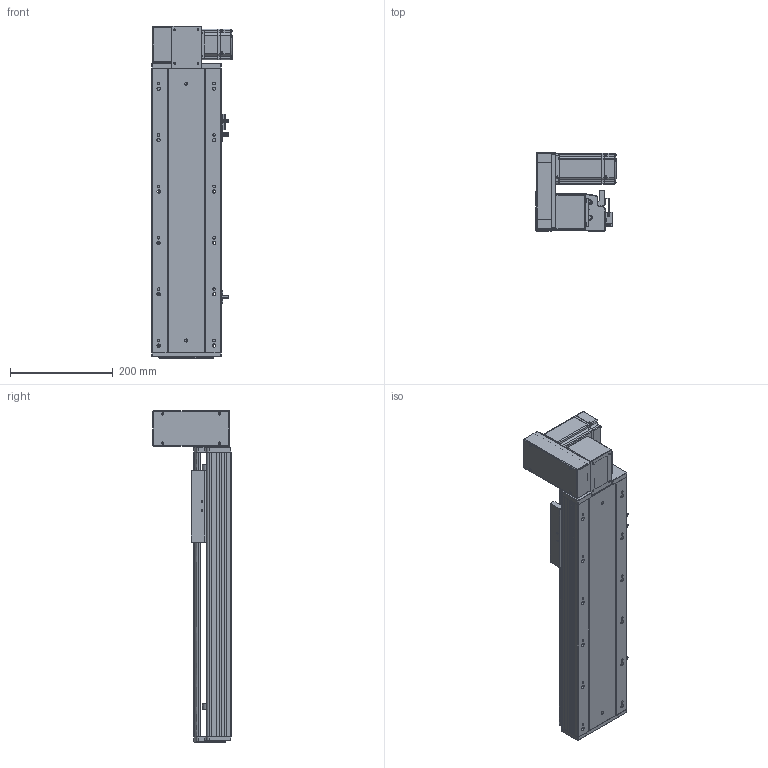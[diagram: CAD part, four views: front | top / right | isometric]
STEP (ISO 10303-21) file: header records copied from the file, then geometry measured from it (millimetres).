
FILE_DESCRIPTION (( 'STEP AP203' ), '1' );
FILE_NAME ('RY140-T-300-UL.SLDASM_300.step', '2021-03-01T07:42:35', ( '盈信电脑' ), ( '东莞市道滘镇水果街19号' ), 'SwSTEP 2.0', 'SolidWorks 2012', '' );
FILE_SCHEMA (( 'CONFIG_CONTROL_DESIGN' ));
Products named in the file (18): RY140-T-300-UL.SLDASM_300; 滅袉蝶18-10; RY140-T萇儂欶; RY140-T翋肮謫裔啣; 侂狟400W侜督萇儂; 15; RY120-T主同步轮轴承压盖; RY120-T蹟翐M4; RY120-T肮祭湍揤踡輸2; RY140-T萇儂假蚾啣; RY140-T翋肮祭謫盓傅釱; RY120-T肮祭湍揤踡輸1; 覜茼ん672; RY140-T-300-DL倰第奻裔啣; RY120外置感应片(140共用）; RY140綴裔啣; RY140肮祭謫臏賑輸; RY140-T-300-DL倰第菁釱
Assembly tree (23 placements, depth 3):
  RY140-T-300-UL.SLDASM_300
    RY140-T-300-DL倰第菁釱
    RY140肮祭謫臏賑輸
    RY140-T-300-DL倰第奻裔啣
    RY140綴裔啣
    覜茼ん672  x3
    RY120外置感应片(140共用）
    RY120-T肮祭湍揤踡輸2
    RY120-T肮祭湍揤踡輸1
    RY140-T翋肮祭謫盓傅釱
    RY140-T萇儂假蚾啣
    侂狟400W侜督萇儂
      15
    RY120-T主同步轮轴承压盖
    RY120-T蹟翐M4  x4
    RY140-T萇儂欶
    滅袉蝶18-10  x2
    RY140-T翋肮謫裔啣
Bounding box: 157 x 152.5 x 646 mm (x, y, z)
Volume: 2320283.4 mm3; surface area: 841031.1 mm2
Topology: 22 solids, 22 shells, 2563 faces, 7009 edges, 4526 vertices
Faces by surface type: plane 1385, cylinder 904, cone 174, bspline 100
Entity records: 81199 total; most frequent: CARTESIAN_POINT 19919, ORIENTED_EDGE 12594, DIRECTION 11905, EDGE_CURVE 6297, VERTEX_POINT 4125, LINE 4089, VECTOR 4089, AXIS2_PLACEMENT_3D 3908
